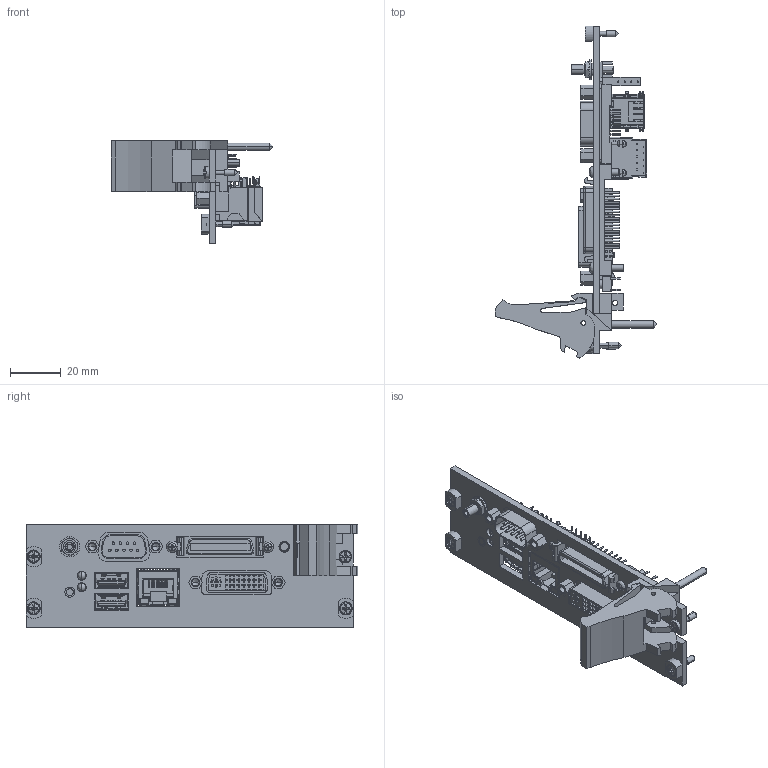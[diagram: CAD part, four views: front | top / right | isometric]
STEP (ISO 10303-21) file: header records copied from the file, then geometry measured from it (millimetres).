
FILE_DESCRIPTION((''),'2;1');
FILE_NAME('CU_PXI-8101','2013-06-06T',('talbott'),(''),'PRO/ENGINEER BY PARAMETRIC TECHNOLOGY CORPORATION, 2011490','PRO/ENGINEER BY PARAMETRIC TECHNOLOGY CORPORATION, 2011490','');
FILE_SCHEMA(('CONFIG_CONTROL_DESIGN'));
Length unit declared in the file: inch
Products named in the file (1): CU_PXI-8101
Bounding box: 63.53 x 130.52 x 40.34 mm (x, y, z)
Surface area: 33270.5 mm2 (no closed solid volume)
Topology: 0 solids, 43 shells, 2313 faces, 8480 edges, 6056 vertices
Faces by surface type: plane 1673, cylinder 563, cone 38, sphere 16, torus 13, bspline 10
Entity records: 91004 total; most frequent: CARTESIAN_POINT 19540, DIRECTION 14369, ORIENTED_EDGE 13805, EDGE_CURVE 8460, VECTOR 6401, LINE 6401, VERTEX_POINT 6056, AXIS2_PLACEMENT_3D 3984
